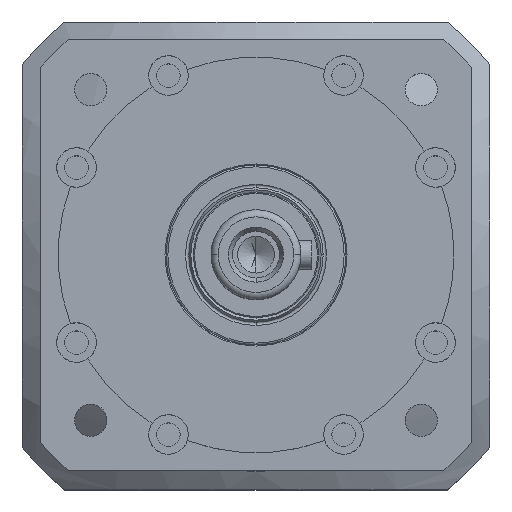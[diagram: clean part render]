
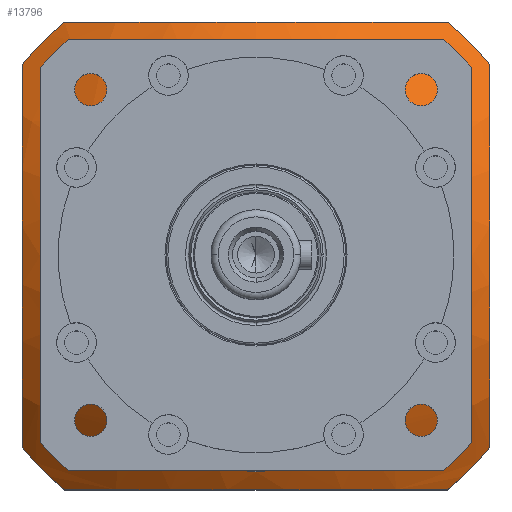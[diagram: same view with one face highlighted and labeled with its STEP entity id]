
A CAD part, top view. The second image highlights one B-rep face of the part: STEP entity #13796.
In plain terms, the highlighted spherical face has radius 120 mm.
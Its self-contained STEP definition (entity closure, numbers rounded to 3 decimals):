
#3 = CARTESIAN_POINT ( 'NONE',  ( 53.207, 65., -46.226 ) ) ;
#49 = DIRECTION ( 'NONE',  ( 0., 0., 1. ) ) ;
#671 = CARTESIAN_POINT ( 'NONE',  ( -53.207, -65., -46.226 ) ) ;
#753 = CARTESIAN_POINT ( 'NONE',  ( 0., 0., -46.226 ) ) ;
#811 = ORIENTED_EDGE ( 'NONE', *, *, #3630, .T. ) ;
#874 = CARTESIAN_POINT ( 'NONE',  ( 0., 0., -28. ) ) ;
#1009 = CARTESIAN_POINT ( 'NONE',  ( 53.207, -65., -46.226 ) ) ;
#1460 = AXIS2_PLACEMENT_3D ( 'NONE', #20702, #10508, #49 ) ;
#1694 = ORIENTED_EDGE ( 'NONE', *, *, #21243, .T. ) ;
#1708 = DIRECTION ( 'NONE',  ( 1., 0., 0. ) ) ;
#1750 = CARTESIAN_POINT ( 'NONE',  ( 0., 65., -131.923 ) ) ;
#2519 = DIRECTION ( 'NONE',  ( 1., 0., 0. ) ) ;
#2520 = EDGE_CURVE ( 'NONE', #7127, #20638, #18428, .T. ) ;
#2629 = DIRECTION ( 'NONE',  ( 1., 0., 0. ) ) ;
#2691 = AXIS2_PLACEMENT_3D ( 'NONE', #12169, #1708, #13938 ) ;
#2727 = DIRECTION ( 'NONE',  ( 1., 0., 0. ) ) ;
#2809 = SPHERICAL_SURFACE ( 'NONE', #18273, 120. ) ;
#3356 = DIRECTION ( 'NONE',  ( 0.792, 0., 0.611 ) ) ;
#3630 = EDGE_CURVE ( 'NONE', #7624, #13010, #9515, .T. ) ;
#4237 = AXIS2_PLACEMENT_3D ( 'NONE', #874, #13105, #2629 ) ;
#4905 = AXIS2_PLACEMENT_3D ( 'NONE', #9538, #21478, #11291 ) ;
#4974 = EDGE_CURVE ( 'NONE', #17779, #7127, #12760, .T. ) ;
#5057 = DIRECTION ( 'NONE',  ( 0., 0., 1. ) ) ;
#5139 = CARTESIAN_POINT ( 'NONE',  ( 0., 0., -131.923 ) ) ;
#5871 = ORIENTED_EDGE ( 'NONE', *, *, #9778, .T. ) ;
#6274 = VERTEX_POINT ( 'NONE', #10626 ) ;
#7030 = ORIENTED_EDGE ( 'NONE', *, *, #21096, .F. ) ;
#7127 = VERTEX_POINT ( 'NONE', #3 ) ;
#7452 = CARTESIAN_POINT ( 'NONE',  ( 65., 53.207, -46.226 ) ) ;
#7534 = ORIENTED_EDGE ( 'NONE', *, *, #21000, .T. ) ;
#7561 = CARTESIAN_POINT ( 'NONE',  ( 0., 0., -46.226 ) ) ;
#7624 = VERTEX_POINT ( 'NONE', #671 ) ;
#8269 = CIRCLE ( 'NONE', #1460, 100.871 ) ;
#8628 = ORIENTED_EDGE ( 'NONE', *, *, #14849, .T. ) ;
#8957 = VERTEX_POINT ( 'NONE', #14467 ) ;
#9313 = DIRECTION ( 'NONE',  ( 1., 0., 0. ) ) ;
#9472 = CIRCLE ( 'NONE', #4905, 60. ) ;
#9515 = CIRCLE ( 'NONE', #12965, 100.871 ) ;
#9538 = CARTESIAN_POINT ( 'NONE',  ( 0., 0., -28. ) ) ;
#9551 = AXIS2_PLACEMENT_3D ( 'NONE', #753, #12986, #2519 ) ;
#9617 = CARTESIAN_POINT ( 'NONE',  ( 0., -65., -131.923 ) ) ;
#9778 = EDGE_CURVE ( 'NONE', #6274, #19964, #21303, .T. ) ;
#10053 = AXIS2_PLACEMENT_3D ( 'NONE', #18165, #13205, #2727 ) ;
#10183 = ORIENTED_EDGE ( 'NONE', *, *, #18403, .T. ) ;
#10227 = DIRECTION ( 'NONE',  ( 0., 0., 1. ) ) ;
#10345 = CARTESIAN_POINT ( 'NONE',  ( 60., 0., -28. ) ) ;
#10389 = CIRCLE ( 'NONE', #9551, 84. ) ;
#10508 = DIRECTION ( 'NONE',  ( -1., 0., 0. ) ) ;
#10626 = CARTESIAN_POINT ( 'NONE',  ( -65., 53.207, -46.226 ) ) ;
#10730 = ORIENTED_EDGE ( 'NONE', *, *, #14566, .F. ) ;
#11150 = CARTESIAN_POINT ( 'NONE',  ( -53.207, 65., -46.226 ) ) ;
#11291 = DIRECTION ( 'NONE',  ( 1., 0., 0. ) ) ;
#11366 = DIRECTION ( 'NONE',  ( 0., 0., 1. ) ) ;
#11921 = AXIS2_PLACEMENT_3D ( 'NONE', #1750, #20743, #5057 ) ;
#11930 = CIRCLE ( 'NONE', #22155, 84. ) ;
#12169 = CARTESIAN_POINT ( 'NONE',  ( -65., 0., -131.923 ) ) ;
#12760 = CIRCLE ( 'NONE', #10053, 84. ) ;
#12965 = AXIS2_PLACEMENT_3D ( 'NONE', #9617, #21556, #11366 ) ;
#12986 = DIRECTION ( 'NONE',  ( 0., 0., 1. ) ) ;
#13010 = VERTEX_POINT ( 'NONE', #1009 ) ;
#13105 = DIRECTION ( 'NONE',  ( 0., 0., 1. ) ) ;
#13205 = DIRECTION ( 'NONE',  ( 0., 0., 1. ) ) ;
#13796 = ADVANCED_FACE ( 'NONE', ( #16120, #20601 ), #2809, .T. ) ;
#13898 = EDGE_LOOP ( 'NONE', ( #10730, #7030 ) ) ;
#13938 = DIRECTION ( 'NONE',  ( 0., 0., -1. ) ) ;
#14467 = CARTESIAN_POINT ( 'NONE',  ( -60., 0., -28. ) ) ;
#14566 = EDGE_CURVE ( 'NONE', #16530, #8957, #20054, .T. ) ;
#14849 = EDGE_CURVE ( 'NONE', #19491, #17779, #8269, .T. ) ;
#16087 = EDGE_LOOP ( 'NONE', ( #10183, #5871, #1694, #811, #7534, #8628, #21399, #20756 ) ) ;
#16120 = FACE_BOUND ( 'NONE', #13898, .T. ) ;
#16168 = CARTESIAN_POINT ( 'NONE',  ( 65., -53.207, -46.226 ) ) ;
#16530 = VERTEX_POINT ( 'NONE', #10345 ) ;
#17344 = CARTESIAN_POINT ( 'NONE',  ( -65., -53.207, -46.226 ) ) ;
#17779 = VERTEX_POINT ( 'NONE', #7452 ) ;
#18052 = AXIS2_PLACEMENT_3D ( 'NONE', #7561, #19571, #9313 ) ;
#18165 = CARTESIAN_POINT ( 'NONE',  ( 0., 0., -46.226 ) ) ;
#18273 = AXIS2_PLACEMENT_3D ( 'NONE', #5139, #3356, #18916 ) ;
#18403 = EDGE_CURVE ( 'NONE', #20638, #6274, #10389, .T. ) ;
#18428 = CIRCLE ( 'NONE', #11921, 100.871 ) ;
#18916 = DIRECTION ( 'NONE',  ( -0.611, 0., 0.792 ) ) ;
#19141 = CIRCLE ( 'NONE', #18052, 84. ) ;
#19491 = VERTEX_POINT ( 'NONE', #16168 ) ;
#19571 = DIRECTION ( 'NONE',  ( 0., 0., 1. ) ) ;
#19964 = VERTEX_POINT ( 'NONE', #17344 ) ;
#20054 = CIRCLE ( 'NONE', #4237, 60. ) ;
#20442 = CARTESIAN_POINT ( 'NONE',  ( 0., 0., -46.226 ) ) ;
#20601 = FACE_OUTER_BOUND ( 'NONE', #16087, .T. ) ;
#20638 = VERTEX_POINT ( 'NONE', #11150 ) ;
#20702 = CARTESIAN_POINT ( 'NONE',  ( 65., 0., -131.923 ) ) ;
#20743 = DIRECTION ( 'NONE',  ( 0., -1., 0. ) ) ;
#20756 = ORIENTED_EDGE ( 'NONE', *, *, #2520, .T. ) ;
#21000 = EDGE_CURVE ( 'NONE', #13010, #19491, #19141, .T. ) ;
#21096 = EDGE_CURVE ( 'NONE', #8957, #16530, #9472, .T. ) ;
#21243 = EDGE_CURVE ( 'NONE', #19964, #7624, #11930, .T. ) ;
#21303 = CIRCLE ( 'NONE', #2691, 100.871 ) ;
#21399 = ORIENTED_EDGE ( 'NONE', *, *, #4974, .T. ) ;
#21478 = DIRECTION ( 'NONE',  ( 0., 0., 1. ) ) ;
#21556 = DIRECTION ( 'NONE',  ( 0., 1., 0. ) ) ;
#22144 = DIRECTION ( 'NONE',  ( 1., 0., 0. ) ) ;
#22155 = AXIS2_PLACEMENT_3D ( 'NONE', #20442, #10227, #22144 ) ;
